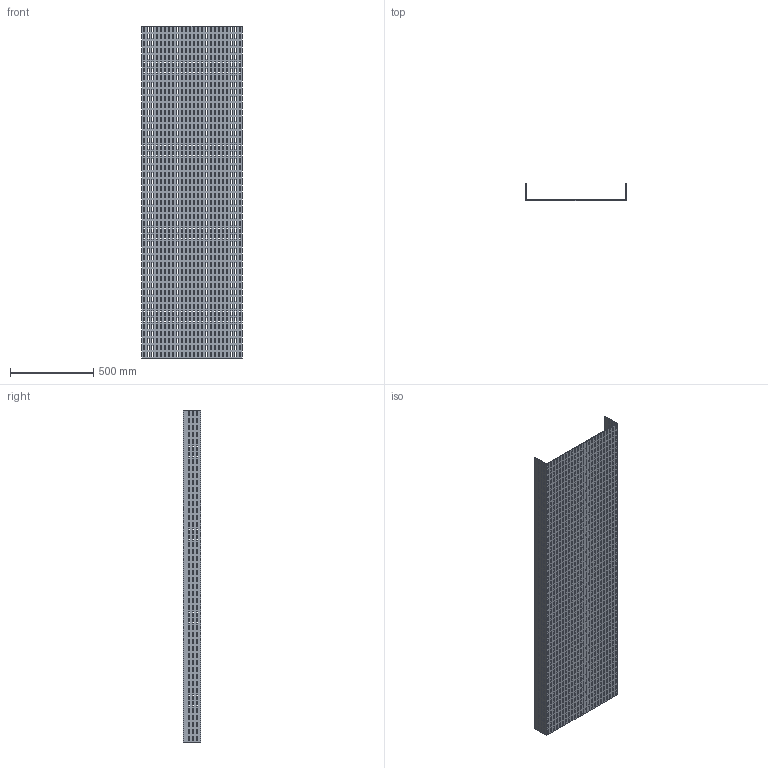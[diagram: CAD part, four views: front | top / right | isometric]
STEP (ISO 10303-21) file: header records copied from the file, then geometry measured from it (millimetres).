
FILE_DESCRIPTION (( 'STEP AP214' ), '1' );
FILE_NAME ('01F2D600.step', '2025-02-21T13:11:02', ( '' ), ( '' ), 'SwSTEP 2.0', 'SolidWorks 2023', '' );
FILE_SCHEMA (( 'AUTOMOTIVE_DESIGN' ));
Products named in the file (1): 01F2D600
Bounding box: 604 x 104 x 2000 mm (x, y, z)
Volume: 4753000 mm3; surface area: 3058195 mm2
Topology: 1 solids, 1 shells, 5770 faces, 17304 edges, 11536 vertices
Faces by surface type: plane 5770
Entity records: 196151 total; most frequent: CARTESIAN_POINT 34611, ORIENTED_EDGE 34608, DIRECTION 28846, VECTOR 17304, LINE 17304, EDGE_CURVE 17304, VERTEX_POINT 11536, EDGE_LOOP 8650
